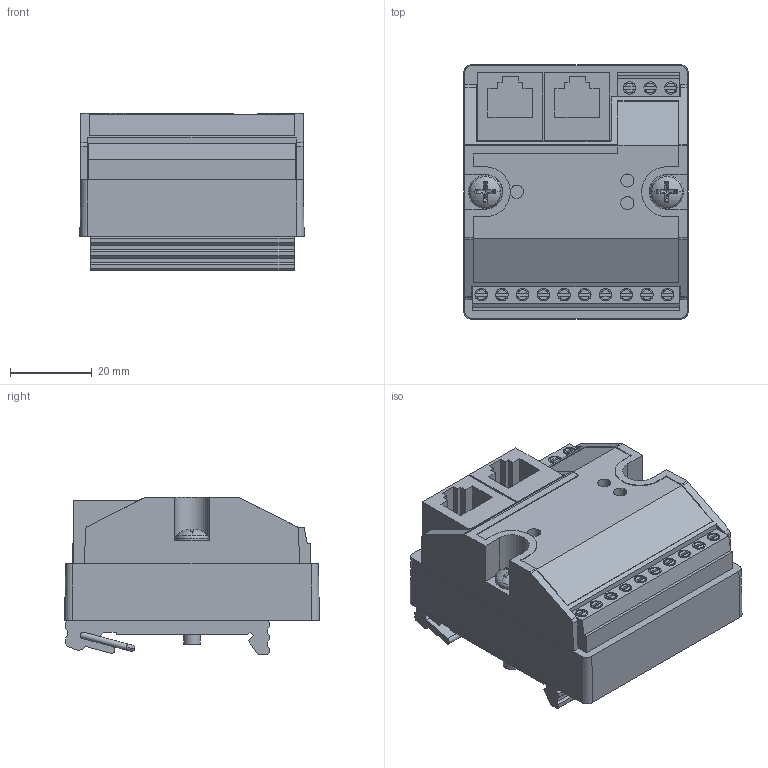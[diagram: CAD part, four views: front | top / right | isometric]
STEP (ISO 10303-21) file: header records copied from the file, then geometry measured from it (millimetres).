
FILE_DESCRIPTION (( 'STEP AP203' ), '1' );
FILE_NAME ('FEN20-4DIP-4DXP-DIN.step', '2018-05-21T18:31:16', ( '' ), ( '' ), 'SwSTEP 2.0', 'SolidWorks 2015', '' );
FILE_SCHEMA (( 'CONFIG_CONTROL_DESIGN' ));
Length unit declared in the file: millimetre
Products named in the file (2): FEN20-4DIP-4DXP-DIN
Bounding box: 55 x 62.48 x 38.6 mm (x, y, z)
Volume: 97621.5 mm3; surface area: 22320.7 mm2
Topology: 1 solids, 6 shells, 475 faces, 1272 edges, 838 vertices
Faces by surface type: plane 258, cylinder 108, cone 40, torus 40, bspline 25, sphere 4
Entity records: 15940 total; most frequent: CARTESIAN_POINT 3875, ORIENTED_EDGE 2536, DIRECTION 2470, EDGE_CURVE 1268, AXIS2_PLACEMENT_3D 901, VERTEX_POINT 838, VECTOR 668, LINE 668
